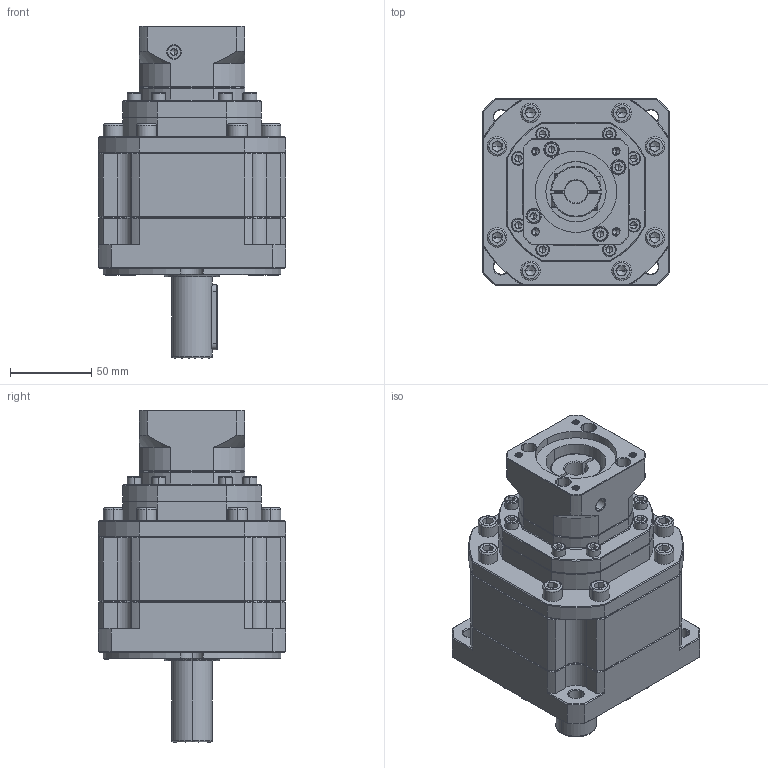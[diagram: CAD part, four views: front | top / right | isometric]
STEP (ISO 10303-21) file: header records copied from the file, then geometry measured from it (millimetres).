
FILE_DESCRIPTION (( 'STEP AP214' ), '1' );
FILE_NAME ('ZB115A-D25-L3-P2-14-50-70-M5.step', '2023-08-26T10:31:03', ( '' ), ( '' ), 'SwSTEP 2.0', 'SolidWorks 2016', '' );
FILE_SCHEMA (( 'AUTOMOTIVE_DESIGN' ));
Length unit declared in the file: millimetre
Products named in the file (1): ZB115A-D25-L3-P2-14-50-70-M5
Bounding box: 115 x 115 x 204 mm (x, y, z)
Volume: 1293952.1 mm3; surface area: 122307 mm2
Topology: 7 solids, 7 shells, 2559 faces, 6739 edges, 4294 vertices
Faces by surface type: plane 1306, cylinder 446, bspline 443, cone 342, torus 22
Entity records: 132924 total; most frequent: CARTESIAN_POINT 45128, ORIENTED_EDGE 13354, DIRECTION 10777, EDGE_CURVE 6677, VERTEX_POINT 4294, VECTOR 4279, LINE 4279, AXIS2_PLACEMENT_3D 3249
